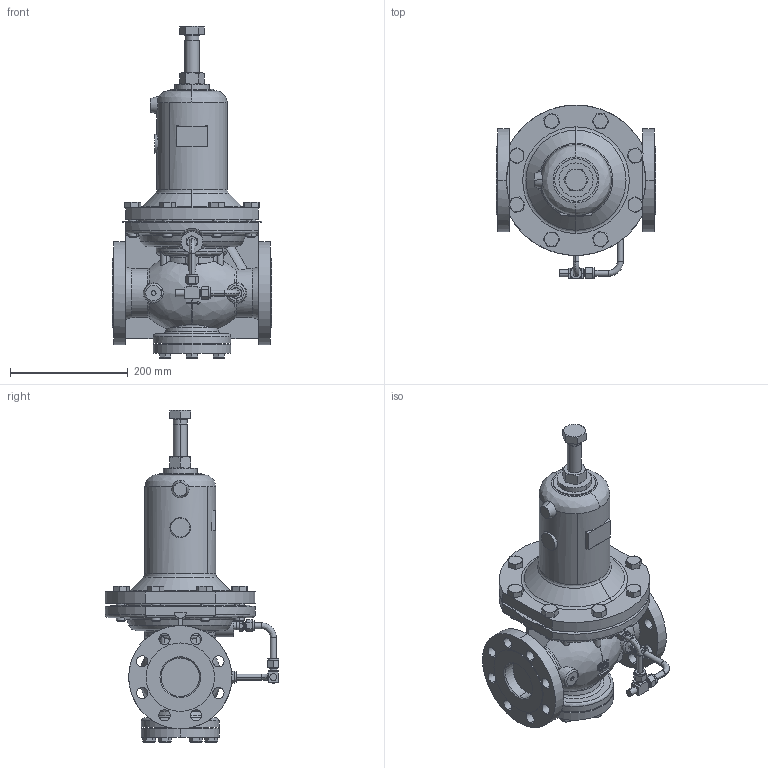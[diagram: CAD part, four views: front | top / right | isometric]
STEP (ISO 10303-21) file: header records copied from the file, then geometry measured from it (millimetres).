
FILE_DESCRIPTION( (''), '2;1');
FILE_NAME ('PC1276.14144.GD-200H 65A_24127.stp','2026-01-15T16:45:25',(''),(''),'spGate 20.6.3 (****-****-****-****)','','');
FILE_SCHEMA (('AUTOMOTIVE_DESIGN'));
Length unit declared in the file: millimetre
Products named in the file (13): Assembly; GD-200(65A)本体Ｐ; GD200(6580)保護筒; CP_''_JIS B 1180 全ネジ六角ボルト''_17166; CP_''_JIS B 1181 六角ナット 2種 上 ''_700; B-600-1-4RT; PC1276-prt5; PC1276-prt6; PC1276-prt7; 検出管A65_M5; SS-10M0-3; 検出管B65_M5; CP_''_JIS B 1180 全ネジ六角ボ''_(1)_17166
Assembly tree (20 placements, depth 2):
  Assembly
    GD-200(65A)本体Ｐ
    GD200(6580)保護筒
    CP_''_JIS B 1180 全ネジ六角ボルト''_17166
    CP_''_JIS B 1181 六角ナット 2種 上 ''_700
    B-600-1-4RT  x2
    PC1276-prt5
    PC1276-prt6
    PC1276-prt7
    検出管A65_M5
    SS-10M0-3
    検出管B65_M5
    CP_''_JIS B 1180 全ネジ六角ボ''_(1)_17166  x8
Bounding box: 270 x 294.69 x 563 mm (x, y, z)
Volume: 8970259.4 mm3; surface area: 646855.2 mm2
Topology: 17 solids, 17 shells, 857 faces, 2036 edges, 1275 vertices
Faces by surface type: plane 315, bspline 311, cylinder 231
Entity records: 37676 total; most frequent: CARTESIAN_POINT 11906, ORIENTED_EDGE 3106, DIRECTION 2308, COLOUR_RGB 2194, PRESENTATION_STYLE_ASSIGNMENT 2194, STYLED_ITEM 2194, DRAUGHTING_PRE_DEFINED_CURVE_FONT 1556, CURVE_STYLE 1556
